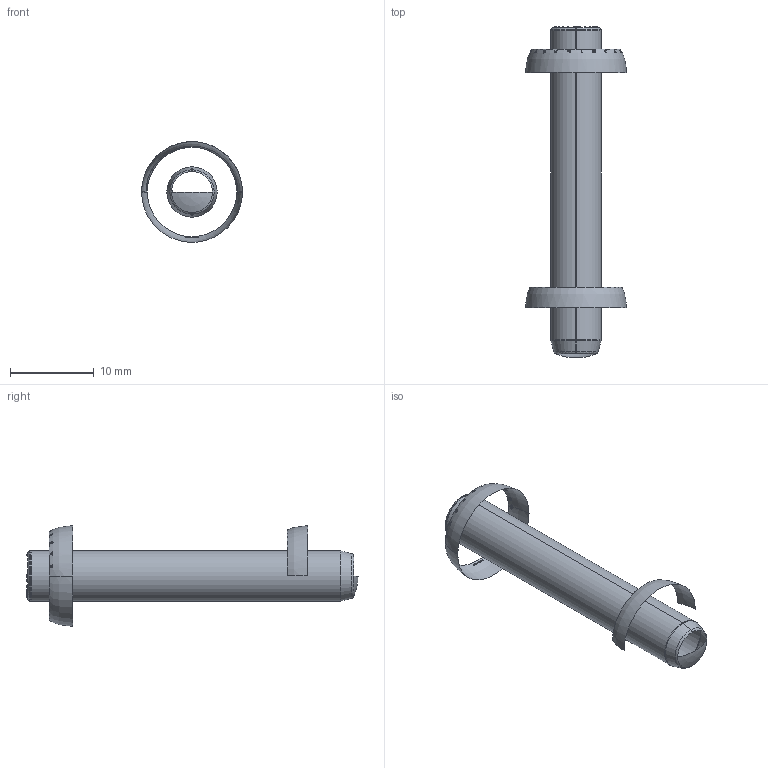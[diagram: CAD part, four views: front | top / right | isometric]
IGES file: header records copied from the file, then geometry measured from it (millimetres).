
Start section: SolidWorks IGES file using analytic representation for surfaces
Global section: file name: D:\Cleonir_arquivos\MT_15_07\Pinos Guia DIN 6325 ISO 8734 sem rosca\PG606040.igs; native system: SolidWorks 2013; preprocessor: SolidWorks 2013; author: Cleonir; date: 130718.161748; units: millimetre
Bounding box: 12 x 39.55 x 11.99 mm (x, y, z)
Surface area: 899.4 mm2 (no closed solid volume)
Topology: 0 solids, 0 shells, 294 faces, 2073 edges, 2072 vertices
Faces by surface type: bspline 265, revolution 29
